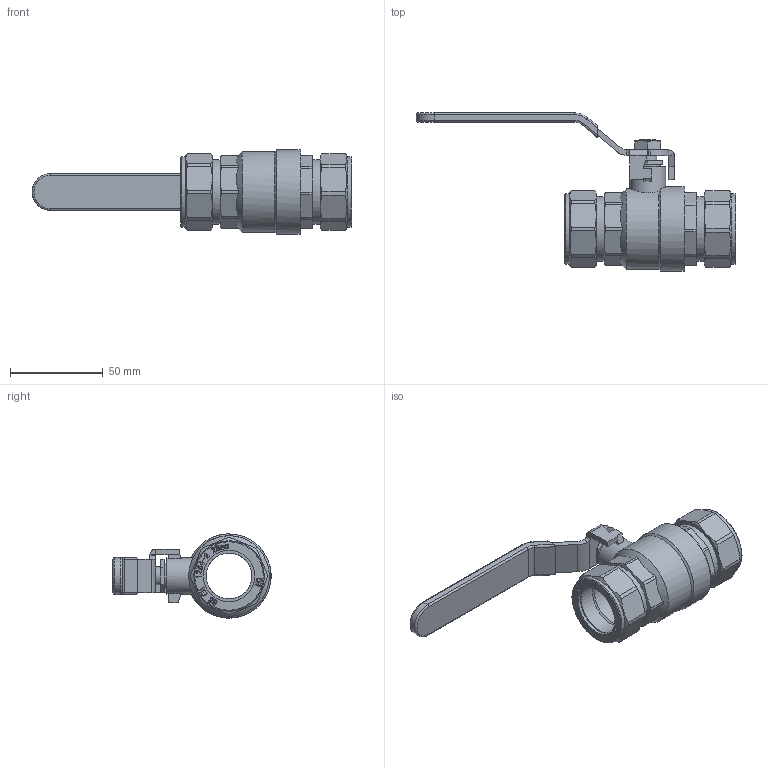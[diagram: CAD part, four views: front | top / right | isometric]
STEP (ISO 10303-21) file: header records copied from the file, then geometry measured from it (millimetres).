
FILE_DESCRIPTION((''),'2;1');
FILE_NAME('P:\Fastrack\53972_CRANE 3D\Fig100YL\Fig-100CYL_28mm\Fig-100CYL_28mm.stp','2011-02-01T13:34:42',('btaylor'),(''),'Autodesk Inventor 2008','Autodesk Inventor 2008','');
FILE_SCHEMA(('AUTOMOTIVE_DESIGN { 1 0 10303 214 1 1 1 1 }'));
Length unit declared in the file: millimetre
Products named in the file (1): Fig-100CYL_28mm
Bounding box: 172.72 x 85.43 x 45.44 mm (x, y, z)
Volume: 91636.5 mm3; surface area: 54949.8 mm2
Topology: 6 solids, 7 shells, 1984 faces, 5274 edges, 3488 vertices
Faces by surface type: plane 1083, bspline 689, cylinder 114, cone 80, torus 15, sphere 3
Full cylindrical faces by diameter (mm): 10 x1, 10.1 x2, 10.3 x1, 11 x1, 11.5 x1, 14 x1, 14.3 x1, 14.5 x1, 19.5 x1, 21.7 x1, 24.8 x3, 28 x4, 28.3 x2, 30.91 x2, 32 x2, 32.602 x2, 33 x4, 34.925 x2, 36.5 x1, 38 x2, 39.5 x1, 41 x1, 41.2 x1, 43.5 x1, 45.5 x1
Entity records: 132914 total; most frequent: CARTESIAN_POINT 86875, ORIENTED_EDGE 10282, DIRECTION 6522, EDGE_CURVE 5141, VERTEX_POINT 3442, VECTOR 3268, LINE 3268, EDGE_LOOP 2287
